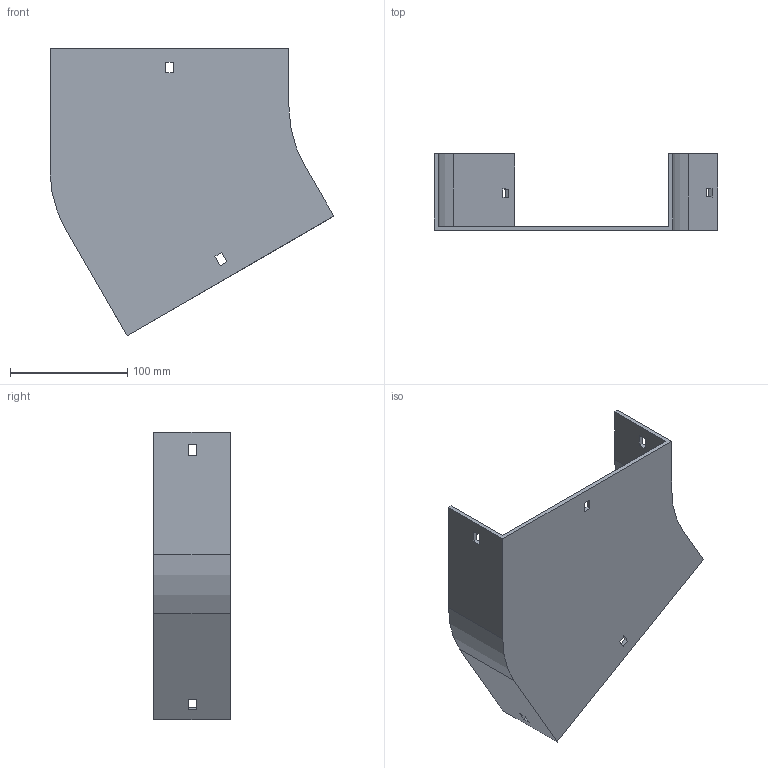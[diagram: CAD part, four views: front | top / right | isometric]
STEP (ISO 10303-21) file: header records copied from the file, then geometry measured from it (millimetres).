
FILE_DESCRIPTION (( 'STEP AP214' ), '1' );
FILE_NAME ('12B1H200.step', '2025-02-21T09:35:02', ( '' ), ( '' ), 'SwSTEP 2.0', 'SolidWorks 2023', '' );
FILE_SCHEMA (( 'AUTOMOTIVE_DESIGN' ));
Length unit declared in the file: millimetre
Products named in the file (1): 12B1H200
Bounding box: 242.4 x 65.5 x 245.3 mm (x, y, z)
Volume: 237149.4 mm3; surface area: 139952.1 mm2
Topology: 1 solids, 1 shells, 42 faces, 120 edges, 80 vertices
Faces by surface type: plane 38, cylinder 4
Entity records: 1399 total; most frequent: CARTESIAN_POINT 243, ORIENTED_EDGE 240, DIRECTION 214, EDGE_CURVE 120, LINE 112, VECTOR 112, VERTEX_POINT 80, EDGE_LOOP 54
